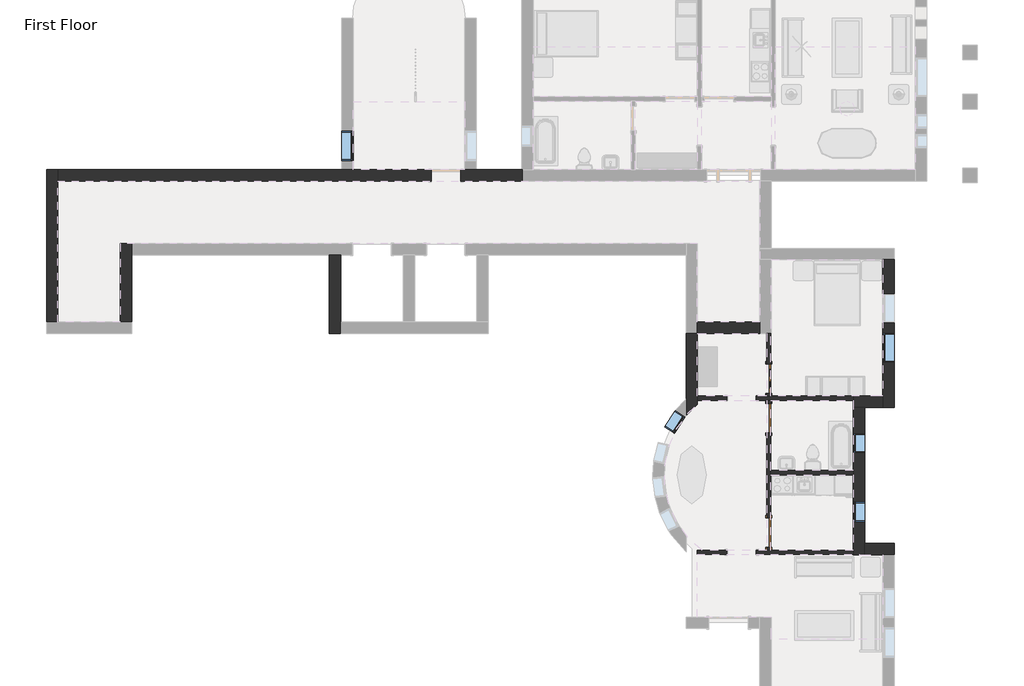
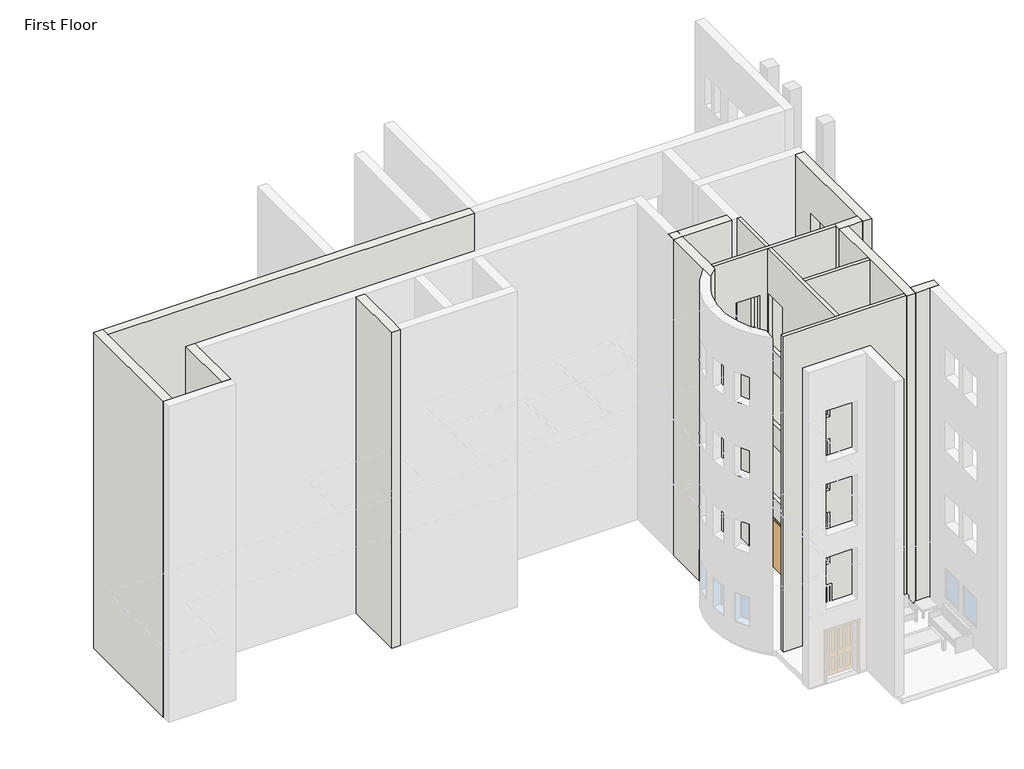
# One storey, part 2 of 8: 14 walls, 5 windows, 3 doors.
"""IFC4 building model written with IfcOpenShell, lengths in millimetres."""

from ifc_helpers import new_model, si_unit, frame, origin, origin_with_axes, place, context, project, spatial, polyline, circle_curve, outline, extrude, faceted_brep, transform, mapped, element, save
from ifc_brep_helpers import plane_surface, revolved_surface, advanced_brep
from components import m_single_decorative_2_0915_x_2134mm_cc9a65e4, m_single_flush_0915_x_2134mm_ab9b6334, m_single_flush_0915_x_2134mm_08e0827a, window_15c49d37, m_fixed_0610_x_1220mm_2b91b687, m_fixed_0915_x_1220mm_ca90dcf7

model = new_model("IFC4")

# Units and contexts
model_context = context("Model", 3, world=origin())
ifc_project = project(units=[si_unit("LENGTHUNIT", "METRE", prefix="MILLI")], contexts=[model_context])

# Site, building, storey
site = spatial("IfcSite", under=ifc_project)
building = spatial("IfcBuilding", under=site)
storey = spatial("IfcBuildingStorey", under=building, Name="First Floor", Elevation=0.0)

# Doors
placement = place(None, origin())
m_single_decorative_2_0915_x_2134mm_shape = m_single_decorative_2_0915_x_2134mm_cc9a65e4(model_context)
element("IfcDoor", 1, ObjectType="M_Single-Decorative 2 : 0915 x 2134mm", at=placement, inside=storey, context=model_context, shape_type="MappedRepresentation", body=[
    mapped(m_single_decorative_2_0915_x_2134mm_shape, transform((-3913.1714563, -1953.9183133, 0.0), x_axis=(0.0, -1.0, 0.0), y_axis=(1.0, 0.0, 0.0), z_axis=(0.0, 0.0, 1.0))),
])
m_single_flush_0915_x_2134mm_shape = m_single_flush_0915_x_2134mm_ab9b6334(model_context)
element("IfcDoor", 2, ObjectType="M_Single-Flush : 0915 x 2134mm", at=placement, inside=storey, context=model_context, shape_type="MappedRepresentation", body=[
    mapped(m_single_flush_0915_x_2134mm_shape, transform((-3913.1714563, -3173.9183133, 0.0), x_axis=(0.0, 1.0, 0.0), y_axis=(-1.0, 0.0, 0.0), z_axis=(0.0, 0.0, 1.0))),
])
m_single_flush_0915_x_2134mm_2_shape = m_single_flush_0915_x_2134mm_08e0827a(model_context)
element("IfcDoor", 3, ObjectType="M_Single-Flush : 0915 x 2134mm", at=placement, inside=storey, context=model_context, shape_type="MappedRepresentation", body=[
    mapped(m_single_flush_0915_x_2134mm_2_shape, transform((-3913.1714563, -6722.1683133, 0.0), x_axis=(0.0, -1.0, 0.0), y_axis=(1.0, 0.0, 0.0), z_axis=(0.0, 0.0, 1.0))),
])

# Walls
element("IfcWall", 4, ObjectType="Exterior - Brick on Mtl. Stud", at=placement, inside=storey, context=model_context, shape_type="Brep", body=[
    faceted_brep([(-17524.3839563, 1888.0191867, 0.0), (-17524.3839563, -550.3808133, 0.0), (-17524.3839563, -550.3808133, 13106.4), (-17524.3839563, 1888.0191867, 13106.4), (-17171.9589563, 1888.0191867, 0.0), (-17171.9589563, 1888.0191867, 13106.4), (-17171.9589563, -197.9558133, 13106.4), (-17171.9589563, -550.3808133, 13106.4), (-17171.9589563, -550.3808133, 0.0), (-17171.9589563, -197.9558133, 0.0)], [[[0, 1, 2, 3]], [[4, 5, 6, 7, 8, 9]], [[1, 0, 4, 9, 8]], [[3, 2, 7, 6, 5]], [[2, 1, 8, 7]], [[0, 3, 5, 4]]]),
])
element("IfcWall", 5, ObjectType="Exterior - Brick on Mtl. Stud", at=placement, inside=storey, context=model_context, shape_type="Brep", body=[
    faceted_brep([(-24001.3839563, 2240.4441867, 0.0), (-24001.3839563, -197.9558133, 0.0), (-24001.3839563, -197.9558133, 13106.4), (-24001.3839563, 2240.4441867, 13106.4), (-23648.9589563, 2240.4441867, 0.0), (-23648.9589563, 2240.4441867, 13106.4), (-23648.9589563, 1888.0191867, 13106.4), (-23648.9589563, -197.9558133, 13106.4), (-23648.9589563, -197.9558133, 0.0), (-23648.9589563, 1888.0191867, 0.0)], [[[0, 1, 2, 3]], [[4, 5, 6, 7, 8, 9]], [[1, 0, 4, 9, 8]], [[3, 2, 7, 6, 5]], [[0, 3, 5, 4]], [[2, 1, 8, 7]]]),
])
element("IfcWall", 6, ObjectType="Exterior - Brick on Mtl. Stud", at=placement, inside=storey, context=model_context, shape_type="Brep", body=[
    faceted_brep([(-25934.9589563, -197.9558133, 0.0), (-25934.9589563, 4174.0191867, 0.0), (-25934.9589563, 4526.4441867, 0.0), (-25934.9589563, 4526.4441867, 13106.4), (-25934.9589563, 4174.0191867, 13106.4), (-25934.9589563, -197.9558133, 13106.4), (-26287.3839563, -197.9558133, 0.0), (-26287.3839563, -197.9558133, 13106.4), (-26287.3839563, 4526.4441867, 13106.4), (-26287.3839563, 4526.4441867, 0.0)], [[[0, 1, 2, 3, 4, 5]], [[6, 7, 8, 9]], [[2, 1, 0, 6, 9]], [[5, 4, 3, 8, 7]], [[3, 2, 9, 8]], [[0, 5, 7, 6]]]),
])
element("IfcWall", 7, ObjectType="Exterior - Brick on Mtl. Stud", at=placement, inside=storey, context=model_context, shape_type="Brep", body=[
    faceted_brep([(-379.3839563, 1735.6191867, 0.0), (-379.3839563, -2483.9558133, 0.0), (-379.3839563, -2836.3808133, 0.0), (-379.3839563, -2836.3808133, 13107.0), (-379.3839563, -2483.9558133, 13107.0), (-379.3839563, 1735.6191867, 13107.0), (-379.3839563, -222.0683133, 915.0), (-379.3839563, 692.9316867, 915.0), (-379.3839563, 692.9316867, 2135.0), (-379.3839563, -222.0683133, 2135.0), (-379.3839563, -1441.2683133, 915.0), (-379.3839563, -526.2683133, 915.0), (-379.3839563, -526.2683133, 2135.0), (-379.3839563, -1441.2683133, 2135.0), (-379.3839563, -1441.2683133, 10059.0), (-379.3839563, -526.2683133, 10059.0), (-379.3839563, -526.2683133, 11279.0), (-379.3839563, -1441.2683133, 11279.0), (-379.3839563, -222.0683133, 10059.0), (-379.3839563, 692.9316867, 10059.0), (-379.3839563, 692.9316867, 11279.0), (-379.3839563, -222.0683133, 11279.0), (-379.3839563, -1441.2683133, 3963.0), (-379.3839563, -526.2683133, 3963.0), (-379.3839563, -526.2683133, 5183.0), (-379.3839563, -1441.2683133, 5183.0), (-379.3839563, -222.0683133, 3963.0), (-379.3839563, 692.9316867, 3963.0), (-379.3839563, 692.9316867, 5183.0), (-379.3839563, -222.0683133, 5183.0), (-379.3839563, -1441.2683133, 7011.0), (-379.3839563, -526.2683133, 7011.0), (-379.3839563, -526.2683133, 8231.0), (-379.3839563, -1441.2683133, 8231.0), (-379.3839563, -222.0683133, 7011.0), (-379.3839563, 692.9316867, 7011.0), (-379.3839563, 692.9316867, 8231.0), (-379.3839563, -222.0683133, 8231.0), (-26.9589563, 1735.6191867, 0.0), (-26.9589563, 1735.6191867, 13107.0), (-26.9589563, -2836.3808133, 13107.0), (-26.9589563, -2836.3808133, 0.0), (-26.9589563, -222.0683133, 915.0), (-26.9589563, -222.0683133, 2135.0), (-26.9589563, 692.9316867, 2135.0), (-26.9589563, 692.9316867, 915.0), (-26.9589563, -1441.2683133, 915.0), (-26.9589563, -1441.2683133, 2135.0), (-26.9589563, -526.2683133, 2135.0), (-26.9589563, -526.2683133, 915.0), (-26.9589563, -1441.2683133, 10059.0), (-26.9589563, -1441.2683133, 11279.0), (-26.9589563, -526.2683133, 11279.0), (-26.9589563, -526.2683133, 10059.0), (-26.9589563, -222.0683133, 10059.0), (-26.9589563, -222.0683133, 11279.0), (-26.9589563, 692.9316867, 11279.0), (-26.9589563, 692.9316867, 10059.0), (-26.9589563, -1441.2683133, 3963.0), (-26.9589563, -1441.2683133, 5183.0), (-26.9589563, -526.2683133, 5183.0), (-26.9589563, -526.2683133, 3963.0), (-26.9589563, -222.0683133, 3963.0), (-26.9589563, -222.0683133, 5183.0), (-26.9589563, 692.9316867, 5183.0), (-26.9589563, 692.9316867, 3963.0), (-26.9589563, -1441.2683133, 7011.0), (-26.9589563, -1441.2683133, 8231.0), (-26.9589563, -526.2683133, 8231.0), (-26.9589563, -526.2683133, 7011.0), (-26.9589563, -222.0683133, 7011.0), (-26.9589563, -222.0683133, 8231.0), (-26.9589563, 692.9316867, 8231.0), (-26.9589563, 692.9316867, 7011.0)], [[[0, 1, 2, 3, 4, 5], [6, 7, 8, 9], [10, 11, 12, 13], [14, 15, 16, 17], [18, 19, 20, 21], [22, 23, 24, 25], [26, 27, 28, 29], [30, 31, 32, 33], [34, 35, 36, 37]], [[38, 39, 40, 41], [42, 43, 44, 45], [46, 47, 48, 49], [50, 51, 52, 53], [54, 55, 56, 57], [58, 59, 60, 61], [62, 63, 64, 65], [66, 67, 68, 69], [70, 71, 72, 73]], [[2, 1, 0, 38, 41]], [[5, 4, 3, 40, 39]], [[0, 5, 39, 38]], [[3, 2, 41, 40]], [[43, 42, 6, 9]], [[44, 43, 9, 8]], [[45, 44, 8, 7]], [[42, 45, 7, 6]], [[47, 46, 10, 13]], [[48, 47, 13, 12]], [[49, 48, 12, 11]], [[46, 49, 11, 10]], [[51, 50, 14, 17]], [[52, 51, 17, 16]], [[53, 52, 16, 15]], [[50, 53, 15, 14]], [[55, 54, 18, 21]], [[56, 55, 21, 20]], [[57, 56, 20, 19]], [[54, 57, 19, 18]], [[59, 58, 22, 25]], [[60, 59, 25, 24]], [[61, 60, 24, 23]], [[58, 61, 23, 22]], [[63, 62, 26, 29]], [[64, 63, 29, 28]], [[65, 64, 28, 27]], [[62, 65, 27, 26]], [[67, 66, 30, 33]], [[68, 67, 33, 32]], [[69, 68, 32, 31]], [[66, 69, 31, 30]], [[71, 70, 34, 37]], [[72, 71, 37, 36]], [[73, 72, 36, 35]], [[70, 73, 35, 34]]]),
])
element("IfcWall", 8, ObjectType="Exterior - Brick on Mtl. Stud", at=placement, inside=storey, context=model_context, shape_type="Brep", body=[
    faceted_brep([(-379.3839563, -2483.9558133, 0.0), (-1293.7839563, -2483.9558133, 0.0), (-1293.7839563, -2483.9558133, 13107.0), (-379.3839563, -2483.9558133, 13107.0), (-379.3839563, -2836.3808133, 0.0), (-379.3839563, -2836.3808133, 13107.0), (-941.3589563, -2836.3808133, 13107.0), (-1293.7839563, -2836.3808133, 13107.0), (-1293.7839563, -2836.3808133, 0.0), (-941.3589563, -2836.3808133, 0.0), (-1293.7839563, -2627.9183133, 0.0), (-1293.7839563, -2492.4183133, 0.0), (-1293.7839563, -2492.4183133, 13107.0), (-1293.7839563, -2627.9183133, 13107.0)], [[[0, 1, 2, 3]], [[4, 5, 6, 7, 8, 9]], [[1, 0, 4, 9, 8, 10, 11]], [[3, 2, 12, 13, 7, 6, 5]], [[0, 3, 5, 4]], [[2, 1, 11, 10, 8, 7, 13, 12]]]),
])
element("IfcWall", 9, ObjectType="Exterior - Brick on Mtl. Stud", at=placement, inside=storey, context=model_context, shape_type="Brep", body=[
    faceted_brep([(-1293.7839563, -2836.3808133, 0.0), (-1293.7839563, -4793.7683133, 0.0), (-1293.7839563, -4929.2683133, 0.0), (-1293.7839563, -7264.4183133, 0.0), (-1293.7839563, -7399.9183133, 0.0), (-1293.7839563, -7408.3808133, 0.0), (-1293.7839563, -7408.3808133, 13107.0), (-1293.7839563, -7399.9183133, 13107.0), (-1293.7839563, -7264.4183133, 13107.0), (-1293.7839563, -4929.2683133, 13107.0), (-1293.7839563, -4793.7683133, 13107.0), (-1293.7839563, -2836.3808133, 13107.0), (-1293.7839563, -4252.1183133, 915.0), (-1293.7839563, -3642.1183133, 915.0), (-1293.7839563, -3642.1183133, 2135.0), (-1293.7839563, -4252.1183133, 2135.0), (-1293.7839563, -6385.7183133, 915.0), (-1293.7839563, -5775.7183133, 915.0), (-1293.7839563, -5775.7183133, 2135.0), (-1293.7839563, -6385.7183133, 2135.0), (-1293.7839563, -6385.7183133, 10059.0), (-1293.7839563, -5775.7183133, 10059.0), (-1293.7839563, -5775.7183133, 11279.0), (-1293.7839563, -6385.7183133, 11279.0), (-1293.7839563, -4252.1183133, 10059.0), (-1293.7839563, -3642.1183133, 10059.0), (-1293.7839563, -3642.1183133, 11279.0), (-1293.7839563, -4252.1183133, 11279.0), (-1293.7839563, -6385.7183133, 3963.0), (-1293.7839563, -5775.7183133, 3963.0), (-1293.7839563, -5775.7183133, 5183.0), (-1293.7839563, -6385.7183133, 5183.0), (-1293.7839563, -4252.1183133, 3963.0), (-1293.7839563, -3642.1183133, 3963.0), (-1293.7839563, -3642.1183133, 5183.0), (-1293.7839563, -4252.1183133, 5183.0), (-1293.7839563, -6385.7183133, 7011.0), (-1293.7839563, -5775.7183133, 7011.0), (-1293.7839563, -5775.7183133, 8231.0), (-1293.7839563, -6385.7183133, 8231.0), (-1293.7839563, -4252.1183133, 7011.0), (-1293.7839563, -3642.1183133, 7011.0), (-1293.7839563, -3642.1183133, 8231.0), (-1293.7839563, -4252.1183133, 8231.0), (-941.3589563, -2836.3808133, 0.0), (-941.3589563, -2836.3808133, 13107.0), (-941.3589563, -7055.9558133, 13107.0), (-941.3589563, -7408.3808133, 13107.0), (-941.3589563, -7408.3808133, 0.0), (-941.3589563, -7055.9558133, 0.0), (-941.3589563, -4252.1183133, 915.0), (-941.3589563, -4252.1183133, 2135.0), (-941.3589563, -3642.1183133, 2135.0), (-941.3589563, -3642.1183133, 915.0), (-941.3589563, -6385.7183133, 915.0), (-941.3589563, -6385.7183133, 2135.0), (-941.3589563, -5775.7183133, 2135.0), (-941.3589563, -5775.7183133, 915.0), (-941.3589563, -6385.7183133, 10059.0), (-941.3589563, -6385.7183133, 11279.0), (-941.3589563, -5775.7183133, 11279.0), (-941.3589563, -5775.7183133, 10059.0), (-941.3589563, -4252.1183133, 10059.0), (-941.3589563, -4252.1183133, 11279.0), (-941.3589563, -3642.1183133, 11279.0), (-941.3589563, -3642.1183133, 10059.0), (-941.3589563, -6385.7183133, 3963.0), (-941.3589563, -6385.7183133, 5183.0), (-941.3589563, -5775.7183133, 5183.0), (-941.3589563, -5775.7183133, 3963.0), (-941.3589563, -4252.1183133, 3963.0), (-941.3589563, -4252.1183133, 5183.0), (-941.3589563, -3642.1183133, 5183.0), (-941.3589563, -3642.1183133, 3963.0), (-941.3589563, -6385.7183133, 7011.0), (-941.3589563, -6385.7183133, 8231.0), (-941.3589563, -5775.7183133, 8231.0), (-941.3589563, -5775.7183133, 7011.0), (-941.3589563, -4252.1183133, 7011.0), (-941.3589563, -4252.1183133, 8231.0), (-941.3589563, -3642.1183133, 8231.0), (-941.3589563, -3642.1183133, 7011.0)], [[[0, 1, 2, 3, 4, 5, 6, 7, 8, 9, 10, 11], [12, 13, 14, 15], [16, 17, 18, 19], [20, 21, 22, 23], [24, 25, 26, 27], [28, 29, 30, 31], [32, 33, 34, 35], [36, 37, 38, 39], [40, 41, 42, 43]], [[44, 45, 46, 47, 48, 49], [50, 51, 52, 53], [54, 55, 56, 57], [58, 59, 60, 61], [62, 63, 64, 65], [66, 67, 68, 69], [70, 71, 72, 73], [74, 75, 76, 77], [78, 79, 80, 81]], [[5, 4, 3, 2, 1, 0, 44, 49, 48]], [[11, 10, 9, 8, 7, 6, 47, 46, 45]], [[0, 11, 45, 44]], [[6, 5, 48, 47]], [[51, 50, 12, 15]], [[52, 51, 15, 14]], [[53, 52, 14, 13]], [[50, 53, 13, 12]], [[55, 54, 16, 19]], [[56, 55, 19, 18]], [[57, 56, 18, 17]], [[54, 57, 17, 16]], [[59, 58, 20, 23]], [[60, 59, 23, 22]], [[61, 60, 22, 21]], [[58, 61, 21, 20]], [[63, 62, 24, 27]], [[64, 63, 27, 26]], [[65, 64, 26, 25]], [[62, 65, 25, 24]], [[67, 66, 28, 31]], [[68, 67, 31, 30]], [[69, 68, 30, 29]], [[66, 69, 29, 28]], [[71, 70, 32, 35]], [[72, 71, 35, 34]], [[73, 72, 34, 33]], [[70, 73, 33, 32]], [[75, 74, 36, 39]], [[76, 75, 39, 38]], [[77, 76, 38, 37]], [[74, 77, 37, 36]], [[79, 78, 40, 43]], [[80, 79, 43, 42]], [[81, 80, 42, 41]], [[78, 81, 41, 40]]]),
])
element("IfcWall", 10, ObjectType="Exterior - Brick on Mtl. Stud", at=placement, inside=storey, context=model_context, shape_type="Brep", body=[
    faceted_brep([(-941.3589563, -7408.3808133, 0.0), (-379.3839563, -7408.3808133, 0.0), (-214.2839563, -7408.3808133, 0.0), (-26.9589563, -7408.3808133, 0.0), (-26.9589563, -7408.3808133, 13107.0), (-379.3839563, -7408.3808133, 13107.0), (-941.3589563, -7408.3808133, 13107.0), (-941.3589563, -7055.9558133, 0.0), (-941.3589563, -7055.9558133, 13107.0), (-26.9589563, -7055.9558133, 13107.0), (-26.9589563, -7055.9558133, 0.0), (-214.2839563, -7055.9558133, 0.0), (-941.3589563, -7243.2808133, 0.0), (-26.9589563, -7243.2808133, 0.0), (-214.2839563, -7243.2808133, 0.0)], [[[0, 1, 2, 3, 4, 5, 6]], [[7, 8, 9, 10, 11]], [[6, 5, 4, 9, 8]], [[0, 6, 8, 7, 12]], [[4, 3, 13, 10, 9]], [[12, 7, 11, 14]], [[3, 2, 14, 13]], [[14, 11, 10, 13]], [[2, 1, 0, 12, 14]]]),
])
element("IfcWall", 11, ObjectType="Exterior - Brick on Mtl. Stud", at=placement, inside=storey, context=model_context, shape_type="Brep", body=[
    faceted_brep([(-4189.3839563, -197.9558133, 0.0), (-6122.9589563, -197.9558133, 0.0), (-6122.9589563, -197.9558133, 13106.4), (-6475.3839563, -197.9558133, 13106.4), (-6475.3839563, -197.9558133, 13107.0), (-4189.3839563, -197.9558133, 13107.0), (-4189.3839563, -550.3808133, 0.0), (-4189.3839563, -550.3808133, 13107.0), (-6122.9589563, -550.3808133, 13107.0), (-6475.3839563, -550.3808133, 13107.0), (-6475.3839563, -550.3808133, 13106.4), (-6122.9589563, -550.3808133, 13106.4), (-6122.9589563, -550.3808133, 0.0)], [[[0, 1, 2, 3, 4, 5]], [[6, 7, 8, 9, 10, 11, 12]], [[1, 0, 6, 12]], [[5, 4, 9, 8, 7]], [[10, 3, 2, 11]], [[2, 1, 12, 11]], [[4, 3, 10, 9]], [[0, 5, 7, 6]]]),
])
element("IfcWall", 12, ObjectType="Exterior - Brick on Mtl. Stud", at=placement, inside=storey, context=model_context, shape_type="AdvancedBrep", body=[
    advanced_brep(
    [(-6475.3839563, -550.3808133, 0.0), (-6475.3839563, -2581.9609252, 0.0), (-6475.3839563, -3091.149776, 0.0), (-6475.3839563, -3091.149776, 13107.0), (-6475.3839563, -2581.9609252, 13107.0), (-6475.3839563, -550.3808133, 13107.0), (-6475.3839563, -550.3808133, 13106.4), (-6122.9589563, -550.3808133, 0.0), (-6122.9589563, -550.3808133, 13106.4), (-6122.9589563, -550.3808133, 13107.0), (-6122.9589563, -2492.4183133, 13107.0), (-6122.9589563, -2627.9183133, 13107.0), (-6122.9589563, -2741.1478086, 13107.0), (-6122.9589563, -2741.1478086, 0.0), (-6122.9589563, -2627.9183133, 0.0), (-6122.9589563, -2492.4183133, 0.0)],
    [
        (0, 1),
        (1, 2),
        (2, 3),
        (3, 4),
        (4, 5),
        (5, 6),
        (6, 0),
        (7, 8),
        (8, 9),
        (9, 10),
        (10, 11),
        (11, 12),
        (12, 13),
        (13, 14),
        (14, 15),
        (15, 7),
        (0, 7),
        (13, 2, circle_curve(frame((-4283.1089573, -4946.1683133, 0.0), z_axis=(0.0, 0.0, 1.0), x_axis=(0.0, -1.0, 0.0)), 2871.7875)),
        (3, 12, circle_curve(frame((-4283.1089573, -4946.1683133, 13107.0), z_axis=(0.0, 0.0, -1.0), x_axis=(0.0, -1.0, 0.0)), 2871.7875)),
        (9, 5),
    ],
    [
        plane_surface(frame((-6475.3839563, -374.1683133, 0.0), z_axis=(-1.0, 0.0, 0.0), x_axis=(0.0, -1.0, 0.0))),
        plane_surface(frame((-6122.9589563, -374.1683133, 0.0), z_axis=(1.0, 0.0, 0.0), x_axis=(0.0, 1.0, 0.0))),
        plane_surface(frame((-6475.3839563, -374.1683133, 0.0), z_axis=(0.0, 0.0, -1.0), x_axis=(1.0, 0.0, 0.0))),
        plane_surface(frame((-6475.3839563, -2660.1683133, 13107.0), z_axis=(0.0, 0.0, 1.0), x_axis=(1.0, 0.0, 0.0))),
        revolved_surface(polyline([(-4283.1089573, -7817.955813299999, 0.0), (-4283.1089573, -7817.955813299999, 13107.0)]), (-4283.1089573, -4946.1683133, 0.0), (0.0, 0.0, -1.0)),
        plane_surface(frame((-4013.1714563, -550.3808133, 0.0), z_axis=(0.0, 1.0, 0.0), x_axis=(1.0, 0.0, 0.0))),
    ],
    [
        (0, [[1, 2, 3, 4, 5, 6, 7]]),
        (1, [[8, 9, 10, 11, 12, 13, 14, 15, 16]]),
        (2, [[-2, -1, 17, -16, -15, -14, 18]]),
        (3, [[-5, -4, 19, -12, -11, -10, 20]]),
        (4, [[-3, -18, -13, -19]]),
        (5, [[-7, -6, -20, -9, -8, -17]]),
    ],
),
])
element("IfcWall", 13, ObjectType="Exterior - Brick on Mtl. Stud", at=placement, inside=storey, context=model_context, shape_type="Brep", body=[
    faceted_brep([(-11545.8589563, 4526.4441867, 0.0), (-11545.8589563, 4526.4441867, 13106.4), (-11545.8589563, 4174.0191867, 13106.4), (-11545.8589563, 4174.0191867, 0.0), (-13461.9714563, 4174.0191867, 0.0), (-13461.9714563, 4526.4441867, 0.0), (-13333.3839563, 4526.4441867, 0.0), (-12980.9589563, 4526.4441867, 0.0), (-14376.3714563, 4174.0191867, 0.0), (-25934.9589563, 4174.0191867, 0.0), (-25934.9589563, 4526.4441867, 0.0), (-17143.3839563, 4526.4441867, 0.0), (-16790.9589563, 4526.4441867, 0.0), (-14376.3714563, 4526.4441867, 0.0), (-12980.9589563, 4526.4441867, 13106.4), (-13333.3839563, 4526.4441867, 13106.4), (-16790.9589563, 4526.4441867, 13106.4), (-17143.3839563, 4526.4441867, 13106.4), (-25934.9589563, 4526.4441867, 13106.4), (-25934.9589563, 4174.0191867, 13106.4), (-13461.9714563, 4526.4441867, 2133.6), (-14376.3714563, 4526.4441867, 2133.6), (-14376.3714563, 4526.4441867, 6096.0), (-13461.9714563, 4526.4441867, 6096.0), (-13461.9714563, 4526.4441867, 8229.6), (-14376.3714563, 4526.4441867, 8229.6), (-14376.3714563, 4526.4441867, 3048.0), (-13461.9714563, 4526.4441867, 3048.0), (-13461.9714563, 4526.4441867, 5181.6), (-14376.3714563, 4526.4441867, 5181.6), (-14376.3714563, 4526.4441867, 9144.0), (-13461.9714563, 4526.4441867, 9144.0), (-13461.9714563, 4526.4441867, 11277.6), (-14376.3714563, 4526.4441867, 11277.6), (-13461.9714563, 4174.0191867, 2133.6), (-14376.3714563, 4174.0191867, 2133.6), (-14376.3714563, 4174.0191867, 6096.0), (-14376.3714563, 4174.0191867, 8229.6), (-13461.9714563, 4174.0191867, 8229.6), (-13461.9714563, 4174.0191867, 6096.0), (-14376.3714563, 4174.0191867, 3048.0), (-14376.3714563, 4174.0191867, 5181.6), (-13461.9714563, 4174.0191867, 5181.6), (-13461.9714563, 4174.0191867, 3048.0), (-14376.3714563, 4174.0191867, 9144.0), (-14376.3714563, 4174.0191867, 11277.6), (-13461.9714563, 4174.0191867, 11277.6), (-13461.9714563, 4174.0191867, 9144.0)], [[[0, 1, 2, 3]], [[3, 4, 5, 6, 7, 0]], [[8, 9, 10, 11, 12, 13]], [[1, 14, 15, 16, 17, 18, 19, 2]], [[0, 7, 6, 5, 20, 21, 13, 12, 11, 10, 18, 17, 16, 15, 14, 1], [22, 23, 24, 25], [26, 27, 28, 29], [30, 31, 32, 33]], [[34, 4, 3, 2, 19, 9, 8, 35], [36, 37, 38, 39], [40, 41, 42, 43], [44, 45, 46, 47]], [[18, 10, 9, 19]], [[20, 5, 4, 34]], [[21, 20, 34, 35]], [[13, 21, 35, 8]], [[23, 22, 36, 39]], [[24, 23, 39, 38]], [[25, 24, 38, 37]], [[22, 25, 37, 36]], [[27, 26, 40, 43]], [[28, 27, 43, 42]], [[29, 28, 42, 41]], [[26, 29, 41, 40]], [[31, 30, 44, 47]], [[32, 31, 47, 46]], [[33, 32, 46, 45]], [[30, 33, 45, 44]]]),
])
element("IfcWall", 14, ObjectType="Interior - 135mm Partition (2-hr)", at=placement, inside=storey, context=model_context, shape_type="Brep", body=[
    faceted_brep([(-5208.8714563, -2492.4183133, 2134.0), (-5208.8714563, -2492.4183133, 0.0), (-6122.9589563, -2492.4183133, 0.0), (-6122.9589563, -2492.4183133, 13107.0), (-3980.9214563, -2492.4183133, 13107.0), (-3845.4214563, -2492.4183133, 13107.0), (-1293.7839563, -2492.4183133, 13107.0), (-1293.7839563, -2492.4183133, 0.0), (-3845.4214563, -2492.4183133, 0.0), (-3980.9214563, -2492.4183133, 0.0), (-4293.8714563, -2492.4183133, 0.0), (-4293.8714563, -2492.4183133, 2134.0), (-4293.8714563, -2492.4183133, 11278.0), (-5208.8714563, -2492.4183133, 11278.0), (-5208.8714563, -2492.4183133, 9144.0), (-4293.8714563, -2492.4183133, 9144.0), (-4293.8714563, -2492.4183133, 5182.0), (-5208.8714563, -2492.4183133, 5182.0), (-5208.8714563, -2492.4183133, 3048.0), (-4293.8714563, -2492.4183133, 3048.0), (-4293.8714563, -2492.4183133, 8230.0), (-5208.8714563, -2492.4183133, 8230.0), (-5208.8714563, -2492.4183133, 6096.0), (-4293.8714563, -2492.4183133, 6096.0), (-6122.9589563, -2627.9183133, 0.0), (-5208.8714563, -2627.9183133, 0.0), (-5208.8714563, -2627.9183133, 2134.0), (-4293.8714563, -2627.9183133, 2134.0), (-4293.8714563, -2627.9183133, 0.0), (-3980.9214563, -2627.9183133, 0.0), (-3845.4214563, -2627.9183133, 0.0), (-1293.7839563, -2627.9183133, 0.0), (-1293.7839563, -2627.9183133, 13107.0), (-3845.4214563, -2627.9183133, 13107.0), (-3980.9214563, -2627.9183133, 13107.0), (-6122.9589563, -2627.9183133, 13107.0), (-4293.8714563, -2627.9183133, 11278.0), (-4293.8714563, -2627.9183133, 9144.0), (-5208.8714563, -2627.9183133, 9144.0), (-5208.8714563, -2627.9183133, 11278.0), (-4293.8714563, -2627.9183133, 5182.0), (-4293.8714563, -2627.9183133, 3048.0), (-5208.8714563, -2627.9183133, 3048.0), (-5208.8714563, -2627.9183133, 5182.0), (-4293.8714563, -2627.9183133, 8230.0), (-4293.8714563, -2627.9183133, 6096.0), (-5208.8714563, -2627.9183133, 6096.0), (-5208.8714563, -2627.9183133, 8230.0)], [[[0, 1, 2, 3, 4, 5, 6, 7, 8, 9, 10, 11], [12, 13, 14, 15], [16, 17, 18, 19], [20, 21, 22, 23]], [[24, 25, 26, 27, 28, 29, 30, 31, 32, 33, 34, 35], [36, 37, 38, 39], [40, 41, 42, 43], [44, 45, 46, 47]], [[2, 1, 25, 24]], [[10, 9, 8, 7, 31, 30, 29, 28]], [[6, 5, 4, 3, 35, 34, 33, 32]], [[7, 6, 32, 31]], [[3, 2, 24, 35]], [[28, 27, 11, 10]], [[26, 25, 1, 0]], [[27, 26, 0, 11]], [[37, 36, 12, 15]], [[38, 37, 15, 14]], [[39, 38, 14, 13]], [[36, 39, 13, 12]], [[41, 40, 16, 19]], [[42, 41, 19, 18]], [[43, 42, 18, 17]], [[40, 43, 17, 16]], [[45, 44, 20, 23]], [[46, 45, 23, 22]], [[47, 46, 22, 21]], [[44, 47, 21, 20]]]),
])
element("IfcWall", 15, ObjectType="Interior - 135mm Partition (2-hr)", at=placement, inside=storey, context=model_context, shape_type="Brep", body=[
    faceted_brep([(-5208.8714563, -7264.4183133, 2134.0), (-5208.8714563, -7264.4183133, 0.0), (-6122.9589563, -7264.4183133, 0.0), (-6122.9589563, -7264.4183133, 13107.0), (-3980.9214563, -7264.4183133, 13107.0), (-3845.4214563, -7264.4183133, 13107.0), (-1293.7839563, -7264.4183133, 13107.0), (-1293.7839563, -7264.4183133, 0.0), (-3845.4214563, -7264.4183133, 0.0), (-3980.9214563, -7264.4183133, 0.0), (-4293.8714563, -7264.4183133, 0.0), (-4293.8714563, -7264.4183133, 2134.0), (-4293.8714563, -7264.4183133, 11278.0), (-5208.8714563, -7264.4183133, 11278.0), (-5208.8714563, -7264.4183133, 9144.0), (-4293.8714563, -7264.4183133, 9144.0), (-4293.8714563, -7264.4183133, 5182.0), (-5208.8714563, -7264.4183133, 5182.0), (-5208.8714563, -7264.4183133, 3048.0), (-4293.8714563, -7264.4183133, 3048.0), (-4293.8714563, -7264.4183133, 8230.0), (-5208.8714563, -7264.4183133, 8230.0), (-5208.8714563, -7264.4183133, 6096.0), (-4293.8714563, -7264.4183133, 6096.0), (-6122.9589563, -7399.9183133, 0.0), (-5208.8714563, -7399.9183133, 0.0), (-5208.8714563, -7399.9183133, 2134.0), (-4293.8714563, -7399.9183133, 2134.0), (-4293.8714563, -7399.9183133, 0.0), (-1293.7839563, -7399.9183133, 0.0), (-1293.7839563, -7399.9183133, 13107.0), (-6122.9589563, -7399.9183133, 13107.0), (-4293.8714563, -7399.9183133, 11278.0), (-4293.8714563, -7399.9183133, 9144.0), (-5208.8714563, -7399.9183133, 9144.0), (-5208.8714563, -7399.9183133, 11278.0), (-4293.8714563, -7399.9183133, 5182.0), (-4293.8714563, -7399.9183133, 3048.0), (-5208.8714563, -7399.9183133, 3048.0), (-5208.8714563, -7399.9183133, 5182.0), (-4293.8714563, -7399.9183133, 8230.0), (-4293.8714563, -7399.9183133, 6096.0), (-5208.8714563, -7399.9183133, 6096.0), (-5208.8714563, -7399.9183133, 8230.0)], [[[0, 1, 2, 3, 4, 5, 6, 7, 8, 9, 10, 11], [12, 13, 14, 15], [16, 17, 18, 19], [20, 21, 22, 23]], [[24, 25, 26, 27, 28, 29, 30, 31], [32, 33, 34, 35], [36, 37, 38, 39], [40, 41, 42, 43]], [[2, 1, 25, 24]], [[10, 9, 8, 7, 29, 28]], [[6, 5, 4, 3, 31, 30]], [[7, 6, 30, 29]], [[3, 2, 24, 31]], [[28, 27, 11, 10]], [[26, 25, 1, 0]], [[27, 26, 0, 11]], [[33, 32, 12, 15]], [[34, 33, 15, 14]], [[35, 34, 14, 13]], [[32, 35, 13, 12]], [[37, 36, 16, 19]], [[38, 37, 19, 18]], [[39, 38, 18, 17]], [[36, 39, 17, 16]], [[41, 40, 20, 23]], [[42, 41, 23, 22]], [[43, 42, 22, 21]], [[40, 43, 21, 20]]]),
])
element("IfcWall", 16, ObjectType="Interior - 135mm Partition (2-hr)", at=placement, inside=storey, context=model_context, shape_type="Brep", body=[
    faceted_brep([(-3980.9214563, -7264.4183133, 0.0), (-3980.9214563, -7264.4183133, 13107.0), (-3980.9214563, -2627.9183133, 13107.0), (-3980.9214563, -2627.9183133, 0.0), (-3980.9214563, -2716.4183133, 0.0), (-3980.9214563, -2716.4183133, 2134.0), (-3980.9214563, -3631.4183133, 2134.0), (-3980.9214563, -3631.4183133, 0.0), (-3980.9214563, -6264.6683133, 0.0), (-3980.9214563, -6264.6683133, 2134.0), (-3980.9214563, -7179.6683133, 2134.0), (-3980.9214563, -7179.6683133, 0.0), (-3980.9214563, -7179.6683133, 9144.0), (-3980.9214563, -6264.6683133, 9144.0), (-3980.9214563, -6264.6683133, 11278.0), (-3980.9214563, -7179.6683133, 11278.0), (-3980.9214563, -3631.4183133, 9144.0), (-3980.9214563, -2716.4183133, 9144.0), (-3980.9214563, -2716.4183133, 11278.0), (-3980.9214563, -3631.4183133, 11278.0), (-3980.9214563, -7179.6683133, 3048.0), (-3980.9214563, -6264.6683133, 3048.0), (-3980.9214563, -6264.6683133, 5182.0), (-3980.9214563, -7179.6683133, 5182.0), (-3980.9214563, -3631.4183133, 3048.0), (-3980.9214563, -2716.4183133, 3048.0), (-3980.9214563, -2716.4183133, 5182.0), (-3980.9214563, -3631.4183133, 5182.0), (-3980.9214563, -7179.6683133, 6096.0), (-3980.9214563, -6264.6683133, 6096.0), (-3980.9214563, -6264.6683133, 8230.0), (-3980.9214563, -7179.6683133, 8230.0), (-3980.9214563, -3631.4183133, 6096.0), (-3980.9214563, -2716.4183133, 6096.0), (-3980.9214563, -2716.4183133, 8230.0), (-3980.9214563, -3631.4183133, 8230.0), (-3845.4214563, -7264.4183133, 13107.0), (-3845.4214563, -7264.4183133, 0.0), (-3845.4214563, -7179.6683133, 0.0), (-3845.4214563, -7179.6683133, 2134.0), (-3845.4214563, -6264.6683133, 2134.0), (-3845.4214563, -6264.6683133, 0.0), (-3845.4214563, -4929.2683133, 0.0), (-3845.4214563, -4793.7683133, 0.0), (-3845.4214563, -3631.4183133, 0.0), (-3845.4214563, -3631.4183133, 2134.0), (-3845.4214563, -2716.4183133, 2134.0), (-3845.4214563, -2716.4183133, 0.0), (-3845.4214563, -2627.9183133, 0.0), (-3845.4214563, -2627.9183133, 13107.0), (-3845.4214563, -4793.7683133, 13107.0), (-3845.4214563, -4929.2683133, 13107.0), (-3845.4214563, -6264.6683133, 9144.0), (-3845.4214563, -7179.6683133, 9144.0), (-3845.4214563, -7179.6683133, 11278.0), (-3845.4214563, -6264.6683133, 11278.0), (-3845.4214563, -2716.4183133, 9144.0), (-3845.4214563, -3631.4183133, 9144.0), (-3845.4214563, -3631.4183133, 11278.0), (-3845.4214563, -2716.4183133, 11278.0), (-3845.4214563, -6264.6683133, 3048.0), (-3845.4214563, -7179.6683133, 3048.0), (-3845.4214563, -7179.6683133, 5182.0), (-3845.4214563, -6264.6683133, 5182.0), (-3845.4214563, -2716.4183133, 3048.0), (-3845.4214563, -3631.4183133, 3048.0), (-3845.4214563, -3631.4183133, 5182.0), (-3845.4214563, -2716.4183133, 5182.0), (-3845.4214563, -6264.6683133, 6096.0), (-3845.4214563, -7179.6683133, 6096.0), (-3845.4214563, -7179.6683133, 8230.0), (-3845.4214563, -6264.6683133, 8230.0), (-3845.4214563, -2716.4183133, 6096.0), (-3845.4214563, -3631.4183133, 6096.0), (-3845.4214563, -3631.4183133, 8230.0), (-3845.4214563, -2716.4183133, 8230.0)], [[[0, 1, 2, 3, 4, 5, 6, 7, 8, 9, 10, 11], [12, 13, 14, 15], [16, 17, 18, 19], [20, 21, 22, 23], [24, 25, 26, 27], [28, 29, 30, 31], [32, 33, 34, 35]], [[36, 37, 38, 39, 40, 41, 42, 43, 44, 45, 46, 47, 48, 49, 50, 51], [52, 53, 54, 55], [56, 57, 58, 59], [60, 61, 62, 63], [64, 65, 66, 67], [68, 69, 70, 71], [72, 73, 74, 75]], [[37, 0, 11, 38]], [[47, 4, 3, 48]], [[7, 44, 43, 42, 41, 8]], [[1, 36, 51, 50, 49, 2]], [[1, 0, 37, 36]], [[3, 2, 49, 48]], [[5, 4, 47, 46]], [[6, 5, 46, 45]], [[7, 6, 45, 44]], [[39, 38, 11, 10]], [[40, 39, 10, 9]], [[41, 40, 9, 8]], [[53, 52, 13, 12]], [[54, 53, 12, 15]], [[55, 54, 15, 14]], [[52, 55, 14, 13]], [[17, 16, 57, 56]], [[18, 17, 56, 59]], [[19, 18, 59, 58]], [[16, 19, 58, 57]], [[61, 60, 21, 20]], [[62, 61, 20, 23]], [[63, 62, 23, 22]], [[60, 63, 22, 21]], [[25, 24, 65, 64]], [[26, 25, 64, 67]], [[27, 26, 67, 66]], [[24, 27, 66, 65]], [[69, 68, 29, 28]], [[70, 69, 28, 31]], [[71, 70, 31, 30]], [[68, 71, 30, 29]], [[33, 32, 73, 72]], [[34, 33, 72, 75]], [[35, 34, 75, 74]], [[32, 35, 74, 73]]]),
    faceted_brep([(-3980.9214563, -2411.4183133, 2134.0), (-3980.9214563, -2411.4183133, 0.0), (-3980.9214563, -2492.4183133, 0.0), (-3980.9214563, -2492.4183133, 13107.0), (-3980.9214563, -550.3808133, 13107.0), (-3980.9214563, -550.3808133, 0.0), (-3980.9214563, -1496.4183133, 0.0), (-3980.9214563, -1496.4183133, 2134.0), (-3980.9214563, -2411.4183133, 9144.0), (-3980.9214563, -1496.4183133, 9144.0), (-3980.9214563, -1496.4183133, 11278.0), (-3980.9214563, -2411.4183133, 11278.0), (-3980.9214563, -2411.4183133, 3048.0), (-3980.9214563, -1496.4183133, 3048.0), (-3980.9214563, -1496.4183133, 5182.0), (-3980.9214563, -2411.4183133, 5182.0), (-3980.9214563, -2411.4183133, 6096.0), (-3980.9214563, -1496.4183133, 6096.0), (-3980.9214563, -1496.4183133, 8230.0), (-3980.9214563, -2411.4183133, 8230.0), (-3845.4214563, -2411.4183133, 0.0), (-3845.4214563, -2411.4183133, 2134.0), (-3845.4214563, -1496.4183133, 2134.0), (-3845.4214563, -1496.4183133, 0.0), (-3845.4214563, -550.3808133, 0.0), (-3845.4214563, -550.3808133, 13107.0), (-3845.4214563, -2492.4183133, 13107.0), (-3845.4214563, -2492.4183133, 0.0), (-3845.4214563, -1496.4183133, 9144.0), (-3845.4214563, -2411.4183133, 9144.0), (-3845.4214563, -2411.4183133, 11278.0), (-3845.4214563, -1496.4183133, 11278.0), (-3845.4214563, -1496.4183133, 3048.0), (-3845.4214563, -2411.4183133, 3048.0), (-3845.4214563, -2411.4183133, 5182.0), (-3845.4214563, -1496.4183133, 5182.0), (-3845.4214563, -1496.4183133, 6096.0), (-3845.4214563, -2411.4183133, 6096.0), (-3845.4214563, -2411.4183133, 8230.0), (-3845.4214563, -1496.4183133, 8230.0)], [[[0, 1, 2, 3, 4, 5, 6, 7], [8, 9, 10, 11], [12, 13, 14, 15], [16, 17, 18, 19]], [[20, 21, 22, 23, 24, 25, 26, 27], [28, 29, 30, 31], [32, 33, 34, 35], [36, 37, 38, 39]], [[1, 20, 27, 2]], [[6, 5, 24, 23]], [[25, 4, 3, 26]], [[3, 2, 27, 26]], [[0, 21, 20, 1]], [[21, 0, 7, 22]], [[22, 7, 6, 23]], [[29, 28, 9, 8]], [[30, 29, 8, 11]], [[31, 30, 11, 10]], [[28, 31, 10, 9]], [[33, 32, 13, 12]], [[34, 33, 12, 15]], [[35, 34, 15, 14]], [[32, 35, 14, 13]], [[37, 36, 17, 16]], [[38, 37, 16, 19]], [[39, 38, 19, 18]], [[36, 39, 18, 17]], [[24, 5, 4, 25]]]),
])
element("IfcWall", 17, ObjectType="Interior - 135mm Partition (2-hr)", at=placement, inside=storey, context=model_context, shape_type="SweptSolid", body=[
    extrude(outline(polyline([(-3845.4214563, -4793.7683133), (-1293.7839563, -4793.7683133), (-1293.7839563, -4929.2683133), (-3845.4214563, -4929.2683133), (-3845.4214563, -4793.7683133)])), origin_with_axes(), (0.0, 0.0, 1.0), 13107.0),
])

# Windows
window_shape = window_15c49d37(model_context)
element("IfcWindow", 18, ObjectType="Fixed : 36\" x 48\"", at=placement, inside=storey, context=model_context, shape_type="MappedRepresentation", body=[
    mapped(window_shape, transform((-16967.1714563, 5226.5316867, 0.0), x_axis=(0.0, -1.0, 0.0), y_axis=(1.0, 0.0, 0.0), z_axis=(0.0, 0.0, 1.0))),
])
m_fixed_0610_x_1220mm_shape = m_fixed_0610_x_1220mm_2b91b687(model_context)
element("IfcWindow", 19, ObjectType="M_Fixed : 0610 x 1220mm", at=placement, inside=storey, context=model_context, shape_type="MappedRepresentation", body=[
    mapped(m_fixed_0610_x_1220mm_shape, transform((-1104.5714563, -3947.1183133, 0.0), x_axis=(0.0, 1.0, 0.0), y_axis=(-1.0, 0.0, 0.0), z_axis=(0.0, 0.0, 1.0))),
])
element("IfcWindow", 20, ObjectType="M_Fixed : 0610 x 1220mm", at=placement, inside=storey, context=model_context, shape_type="MappedRepresentation", body=[
    mapped(m_fixed_0610_x_1220mm_shape, transform((-1104.5714563, -6080.7183133, 0.0), x_axis=(0.0, 1.0, 0.0), y_axis=(-1.0, 0.0, 0.0), z_axis=(0.0, 0.0, 1.0))),
])
element("IfcWindow", 21, ObjectType="M_Fixed : 0610 x 1220mm", at=placement, inside=storey, context=model_context, shape_type="MappedRepresentation", body=[
    mapped(m_fixed_0610_x_1220mm_shape, transform((-6832.8777071, -3282.0683061, 0.0), x_axis=(-0.5465459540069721, -0.8374291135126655, 0.0), y_axis=(0.8374291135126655, -0.5465459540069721, 0.0), z_axis=(0.0, 0.0, 1.0))),
])
m_fixed_0915_x_1220mm_shape = m_fixed_0915_x_1220mm_ca90dcf7(model_context)
element("IfcWindow", 22, ObjectType="M_Fixed : 0915 x 1220mm", at=placement, inside=storey, context=model_context, shape_type="MappedRepresentation", body=[
    mapped(m_fixed_0915_x_1220mm_shape, transform((-190.1714563, -983.7683133, 0.0), x_axis=(0.0, 1.0, 0.0), y_axis=(-1.0, 0.0, 0.0), z_axis=(0.0, 0.0, 1.0))),
])

save(model, "model.ifc")
